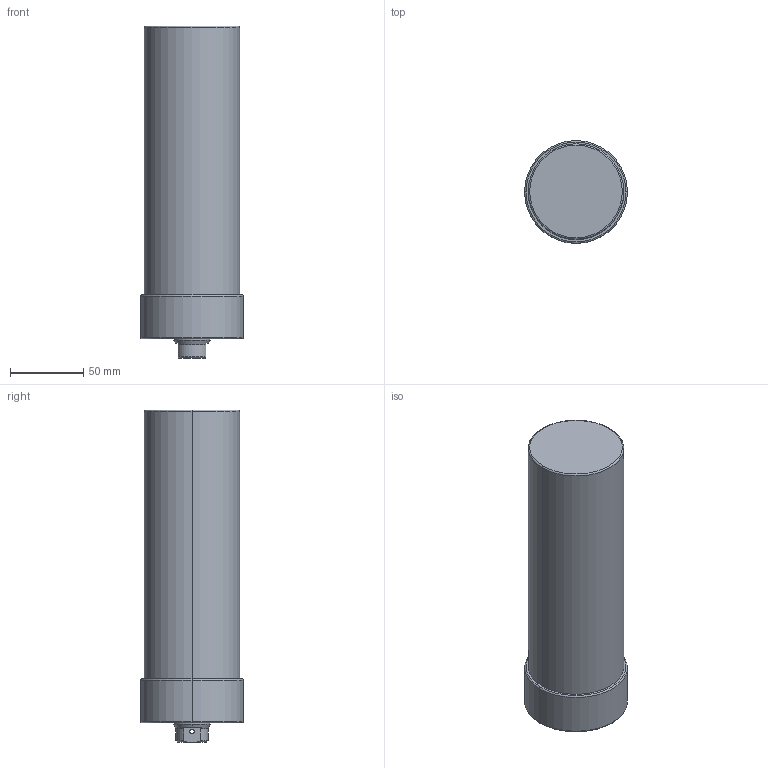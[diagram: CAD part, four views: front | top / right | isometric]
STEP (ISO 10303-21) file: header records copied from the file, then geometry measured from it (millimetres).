
FILE_DESCRIPTION (( 'STEP AP203' ), '1' );
FILE_NAME ('CLLU-065GB-150.STEP', '2020-01-07T06:50:02', ( '' ), ( '' ), 'SwSTEP 2.0', 'SolidWorks 2015', '' );
FILE_SCHEMA (( 'CONFIG_CONTROL_DESIGN' ));
Length unit declared in the file: millimetre
Products named in the file (1): CLLU-065GB-150
Bounding box: 70 x 70 x 226 mm (x, y, z)
Volume: 723075.1 mm3; surface area: 54450.5 mm2
Topology: 1 solids, 1 shells, 66 faces, 154 edges, 87 vertices
Faces by surface type: cylinder 26, cone 24, plane 10, torus 6
Entity records: 2001 total; most frequent: CARTESIAN_POINT 430, DIRECTION 342, ORIENTED_EDGE 288, EDGE_CURVE 144, AXIS2_PLACEMENT_3D 143, VERTEX_POINT 87, EDGE_LOOP 77, CIRCLE 76
